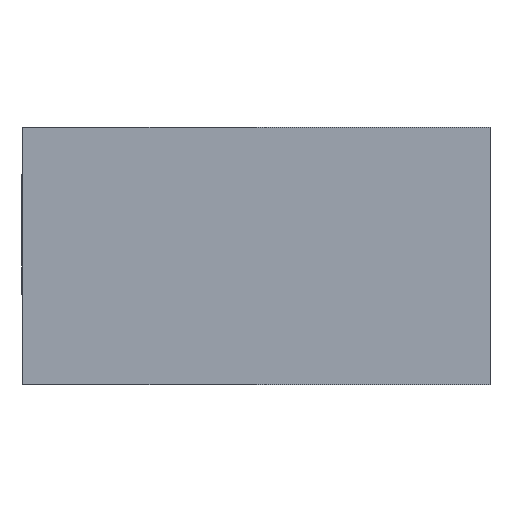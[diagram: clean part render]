
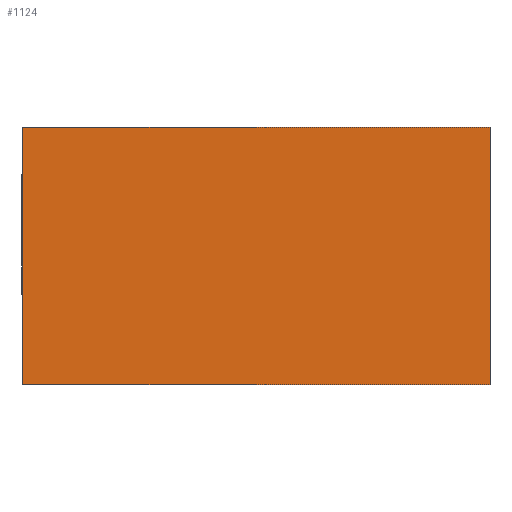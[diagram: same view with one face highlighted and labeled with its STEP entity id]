
A CAD part, left-side view. The second image highlights one B-rep face of the part: STEP entity #1124.
In plain terms, the highlighted planar face has unit normal (-1, 0, 0).
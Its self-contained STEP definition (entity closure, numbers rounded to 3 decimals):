
#24 = EDGE_CURVE ( 'NONE', #1997, #1052, #128, .T. ) ;
#93 = LINE ( 'NONE', #943, #342 ) ;
#128 = LINE ( 'NONE', #807, #833 ) ;
#326 = LINE ( 'NONE', #1199, #1939 ) ;
#342 = VECTOR ( 'NONE', #573, 1000. ) ;
#415 = LINE ( 'NONE', #1762, #528 ) ;
#528 = VECTOR ( 'NONE', #909, 1000. ) ;
#560 = FACE_OUTER_BOUND ( 'NONE', #1892, .T. ) ;
#573 = DIRECTION ( 'NONE',  ( 0., -1., 0. ) ) ;
#613 = VERTEX_POINT ( 'NONE', #1048 ) ;
#777 = ORIENTED_EDGE ( 'NONE', *, *, #1773, .F. ) ;
#807 = CARTESIAN_POINT ( 'NONE',  ( 0., -18., 9.9 ) ) ;
#833 = VECTOR ( 'NONE', #1495, 1000. ) ;
#842 = DIRECTION ( 'NONE',  ( 0., 0., -1. ) ) ;
#909 = DIRECTION ( 'NONE',  ( 0., -1., 0. ) ) ;
#943 = CARTESIAN_POINT ( 'NONE',  ( 0., 0., 9.9 ) ) ;
#1048 = CARTESIAN_POINT ( 'NONE',  ( 0., 0., 9.9 ) ) ;
#1052 = VERTEX_POINT ( 'NONE', #1591 ) ;
#1083 = ORIENTED_EDGE ( 'NONE', *, *, #24, .F. ) ;
#1124 = ADVANCED_FACE ( 'NONE', ( #560 ), #1246, .F. ) ;
#1199 = CARTESIAN_POINT ( 'NONE',  ( 0., 0., 9.9 ) ) ;
#1207 = CARTESIAN_POINT ( 'NONE',  ( 0., -18., 9.9 ) ) ;
#1246 = PLANE ( 'NONE',  #1531 ) ;
#1371 = EDGE_CURVE ( 'NONE', #1543, #1052, #415, .T. ) ;
#1494 = ORIENTED_EDGE ( 'NONE', *, *, #1371, .T. ) ;
#1495 = DIRECTION ( 'NONE',  ( 0., 0., -1. ) ) ;
#1527 = EDGE_CURVE ( 'NONE', #613, #1543, #326, .T. ) ;
#1531 = AXIS2_PLACEMENT_3D ( 'NONE', #1928, #1645, #1673 ) ;
#1543 = VERTEX_POINT ( 'NONE', #2051 ) ;
#1591 = CARTESIAN_POINT ( 'NONE',  ( 0., -18., 0. ) ) ;
#1645 = DIRECTION ( 'NONE',  ( 1., 0., 0. ) ) ;
#1648 = ORIENTED_EDGE ( 'NONE', *, *, #1527, .T. ) ;
#1673 = DIRECTION ( 'NONE',  ( 0., 1., 0. ) ) ;
#1762 = CARTESIAN_POINT ( 'NONE',  ( 0., 0., 0. ) ) ;
#1773 = EDGE_CURVE ( 'NONE', #613, #1997, #93, .T. ) ;
#1892 = EDGE_LOOP ( 'NONE', ( #1494, #1083, #777, #1648 ) ) ;
#1928 = CARTESIAN_POINT ( 'NONE',  ( 0., 0., 9.9 ) ) ;
#1939 = VECTOR ( 'NONE', #842, 1000. ) ;
#1997 = VERTEX_POINT ( 'NONE', #1207 ) ;
#2051 = CARTESIAN_POINT ( 'NONE',  ( 0., 0., 0. ) ) ;
